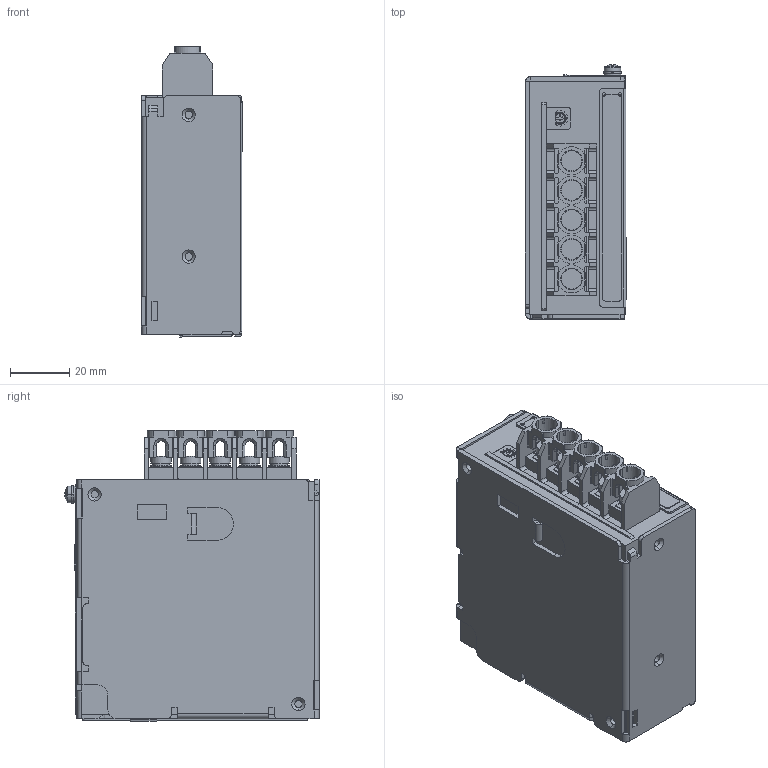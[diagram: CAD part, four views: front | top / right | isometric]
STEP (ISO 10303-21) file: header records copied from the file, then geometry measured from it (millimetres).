
FILE_DESCRIPTION (( 'STEP AP214' ), '1' );
FILE_NAME ('rws50b_outline2.STEP', '2014-07-24T23:41:28', ( 'tluser' ), ( '' ), 'SwSTEP 2.0', 'SolidWorks 2013', '' );
FILE_SCHEMA (( 'AUTOMOTIVE_DESIGN' ));
Length unit declared in the file: millimetre
Products named in the file (1): rws50b_outline2
Bounding box: 34.2 x 86.05 x 98.47 mm (x, y, z)
Volume: 228478.5 mm3; surface area: 32379.6 mm2
Topology: 1 solids, 30 shells, 1473 faces, 4047 edges, 2669 vertices
Faces by surface type: plane 970, cylinder 443, bspline 31, cone 29
Entity records: 64897 total; most frequent: CARTESIAN_POINT 11162, ORIENTED_EDGE 8058, DIRECTION 7428, EDGE_CURVE 4029, LINE 2808, VECTOR 2808, VERTEX_POINT 2669, AXIS2_PLACEMENT_3D 2310
